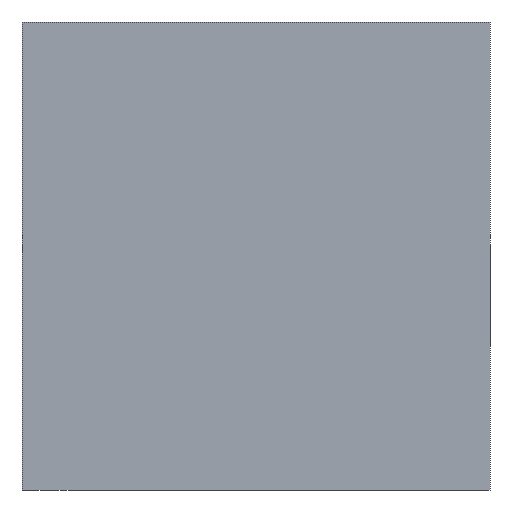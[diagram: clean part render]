
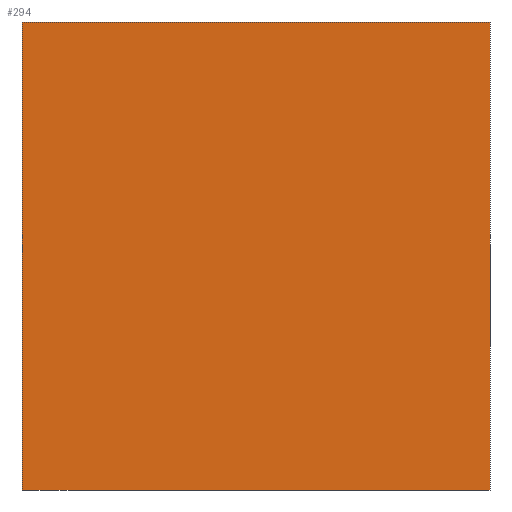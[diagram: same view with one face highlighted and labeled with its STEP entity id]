
A CAD part, left-side view. The second image highlights one B-rep face of the part: STEP entity #294.
In plain terms, the highlighted planar face has unit normal (-1, 0, 0).
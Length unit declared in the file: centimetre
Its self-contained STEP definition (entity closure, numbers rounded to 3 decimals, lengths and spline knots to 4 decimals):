
#93 = CARTESIAN_POINT ( 'NONE',  ( 0., 1000., 1000. ) ) ;
#115 = VERTEX_POINT ( 'NONE', #965 ) ;
#127 = CARTESIAN_POINT ( 'NONE',  ( 0., 1000., 1000. ) ) ;
#223 = EDGE_CURVE ( 'NONE', #115, #1289, #955, .T. ) ;
#249 = LINE ( 'NONE', #93, #820 ) ;
#283 = DIRECTION ( 'NONE',  ( 1., 0., 0. ) ) ;
#294 = ADVANCED_FACE ( 'NONE', ( #729 ), #1291, .F. ) ;
#591 = VERTEX_POINT ( 'NONE', #730 ) ;
#614 = CARTESIAN_POINT ( 'NONE',  ( 0., 0., 1000. ) ) ;
#685 = CARTESIAN_POINT ( 'NONE',  ( 0., 1000., 1000. ) ) ;
#717 = VERTEX_POINT ( 'NONE', #614 ) ;
#728 = VECTOR ( 'NONE', #1845, 100. ) ;
#729 = FACE_OUTER_BOUND ( 'NONE', #1163, .T. ) ;
#730 = CARTESIAN_POINT ( 'NONE',  ( 0., 0., 0. ) ) ;
#733 = EDGE_CURVE ( 'NONE', #115, #717, #249, .T. ) ;
#820 = VECTOR ( 'NONE', #1653, 100. ) ;
#885 = ORIENTED_EDGE ( 'NONE', *, *, #1229, .T. ) ;
#955 = LINE ( 'NONE', #685, #974 ) ;
#965 = CARTESIAN_POINT ( 'NONE',  ( 0., 1000., 1000. ) ) ;
#974 = VECTOR ( 'NONE', #1135, 100. ) ;
#1044 = LINE ( 'NONE', #1488, #1618 ) ;
#1054 = DIRECTION ( 'NONE',  ( 0., 0., -1. ) ) ;
#1135 = DIRECTION ( 'NONE',  ( 0., 0., -1. ) ) ;
#1163 = EDGE_LOOP ( 'NONE', ( #885, #1336, #1573, #1610 ) ) ;
#1229 = EDGE_CURVE ( 'NONE', #1289, #591, #1257, .T. ) ;
#1257 = LINE ( 'NONE', #1275, #728 ) ;
#1275 = CARTESIAN_POINT ( 'NONE',  ( 0., 1000., 0. ) ) ;
#1289 = VERTEX_POINT ( 'NONE', #1733 ) ;
#1291 = PLANE ( 'NONE',  #1675 ) ;
#1336 = ORIENTED_EDGE ( 'NONE', *, *, #1382, .F. ) ;
#1382 = EDGE_CURVE ( 'NONE', #717, #591, #1044, .T. ) ;
#1488 = CARTESIAN_POINT ( 'NONE',  ( 0., 0., 1000. ) ) ;
#1573 = ORIENTED_EDGE ( 'NONE', *, *, #733, .F. ) ;
#1584 = DIRECTION ( 'NONE',  ( 0., 0., -1. ) ) ;
#1610 = ORIENTED_EDGE ( 'NONE', *, *, #223, .T. ) ;
#1618 = VECTOR ( 'NONE', #1054, 100. ) ;
#1653 = DIRECTION ( 'NONE',  ( 0., -1., 0. ) ) ;
#1675 = AXIS2_PLACEMENT_3D ( 'NONE', #127, #283, #1584 ) ;
#1733 = CARTESIAN_POINT ( 'NONE',  ( 0., 1000., 0. ) ) ;
#1845 = DIRECTION ( 'NONE',  ( 0., -1., 0. ) ) ;
